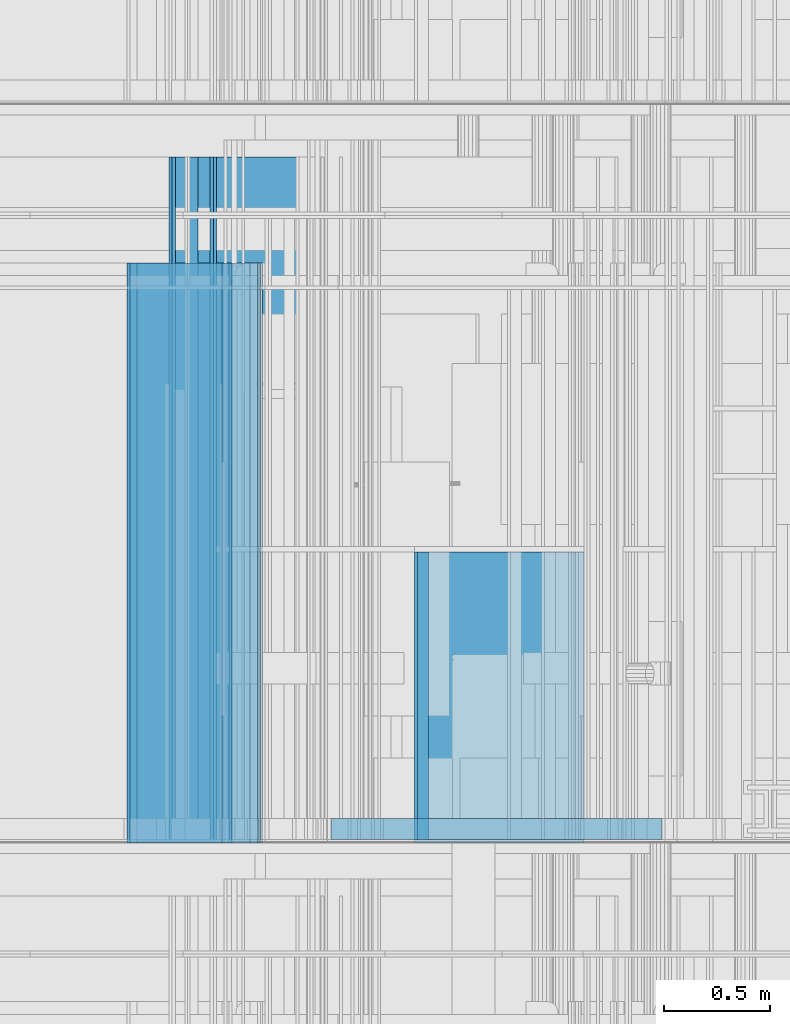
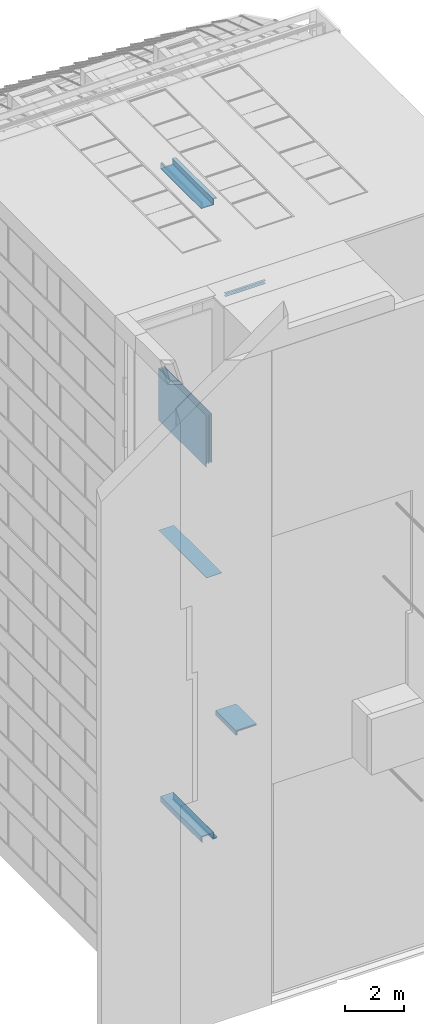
# One storey, part 76 of 583: 28 building element parts, 13 elements without a shape of their own.
"""IFC2X3 building model written with IfcOpenShell, lengths in metres."""

from ifc_helpers import new_model, entity, si_unit, converted_unit, derived_unit, money_unit, direction, frame, frame_2d, origin_with_axes, place, context, subcontext, project, spatial, polyline, rectangle, outline, extrude, material, type_object, element, aggregate, save


model = new_model("IFC2X3")

# Units and contexts
model_context = context("Model", 3, precision=1e-05, world=origin_with_axes(), true_north=direction((0.0, 1.0)))
body_context = subcontext(model_context, "Body", "Model", "MODEL_VIEW", scale=1.0)
ifc_project = project(units=[si_unit("LENGTHUNIT", "METRE"), si_unit("AREAUNIT", "SQUARE_METRE"), si_unit("VOLUMEUNIT", "CUBIC_METRE"), si_unit("ABSORBEDDOSEUNIT", "GRAY"), si_unit("AMOUNTOFSUBSTANCEUNIT", "MOLE"), si_unit("DOSEEQUIVALENTUNIT", "SIEVERT"), si_unit("ELECTRICCAPACITANCEUNIT", "FARAD"), si_unit("ELECTRICCHARGEUNIT", "COULOMB"), si_unit("ELECTRICCONDUCTANCEUNIT", "SIEMENS"), si_unit("ELECTRICCURRENTUNIT", "AMPERE"), si_unit("ELECTRICRESISTANCEUNIT", "OHM"), si_unit("ELECTRICVOLTAGEUNIT", "VOLT"), si_unit("ENERGYUNIT", "JOULE"), si_unit("FORCEUNIT", "NEWTON"), si_unit("FREQUENCYUNIT", "HERTZ"), si_unit("ILLUMINANCEUNIT", "LUX"), si_unit("INDUCTANCEUNIT", "HENRY"), si_unit("LUMINOUSFLUXUNIT", "LUMEN"), si_unit("LUMINOUSINTENSITYUNIT", "CANDELA"), si_unit("MAGNETICFLUXDENSITYUNIT", "TESLA"), si_unit("MAGNETICFLUXUNIT", "WEBER"), si_unit("MASSUNIT", "GRAM"), converted_unit("PLANEANGLEUNIT", "degree", entity("IfcReal", 0.0174532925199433), si_unit("PLANEANGLEUNIT", "RADIAN"), dimensions=[0, 0, 0, 0, 0, 0, 0]), si_unit("POWERUNIT", "WATT"), si_unit("PRESSUREUNIT", "PASCAL"), si_unit("RADIOACTIVITYUNIT", "BECQUEREL"), si_unit("SOLIDANGLEUNIT", "STERADIAN"), si_unit("THERMODYNAMICTEMPERATUREUNIT", "KELVIN"), si_unit("TIMEUNIT", "SECOND"), derived_unit("ACCELERATIONUNIT", [(si_unit("LENGTHUNIT", "METRE"), 1), (si_unit("TIMEUNIT", "SECOND"), -2)]), derived_unit("ANGULARVELOCITYUNIT", [(converted_unit("PLANEANGLEUNIT", "degree", entity("IfcReal", 0.0174532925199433), si_unit("PLANEANGLEUNIT", "RADIAN"), dimensions=[0, 0, 0, 0, 0, 0, 0]), 1), (si_unit("TIMEUNIT", "SECOND"), -1)]), derived_unit("CURVATUREUNIT", [(converted_unit("PLANEANGLEUNIT", "degree", entity("IfcReal", 0.0174532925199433), si_unit("PLANEANGLEUNIT", "RADIAN"), dimensions=[0, 0, 0, 0, 0, 0, 0]), 1), (si_unit("LENGTHUNIT", "METRE"), -1)]), derived_unit("DYNAMICVISCOSITYUNIT", [(si_unit("PRESSUREUNIT", "PASCAL"), 1), (si_unit("TIMEUNIT", "SECOND"), 1)]), derived_unit("HEATFLUXDENSITYUNIT", [(si_unit("POWERUNIT", "WATT"), 1), (si_unit("LENGTHUNIT", "METRE"), -2)]), derived_unit("HEATINGVALUEUNIT", [(si_unit("ENERGYUNIT", "JOULE"), 1), (si_unit("MASSUNIT", "GRAM"), -1)]), derived_unit("INTEGERCOUNTRATEUNIT", [(si_unit("TIMEUNIT", "SECOND"), -1)]), derived_unit("IONCONCENTRATIONUNIT", [(si_unit("MASSUNIT", "GRAM"), 1), (si_unit("VOLUMEUNIT", "CUBIC_METRE"), -1)]), derived_unit("ISOTHERMALMOISTURECAPACITYUNIT", [(si_unit("VOLUMEUNIT", "CUBIC_METRE"), 1), (si_unit("MASSUNIT", "GRAM"), -1)]), derived_unit("KINEMATICVISCOSITYUNIT", [(si_unit("AREAUNIT", "SQUARE_METRE"), 1), (si_unit("TIMEUNIT", "SECOND"), -1)]), derived_unit("LINEARFORCEUNIT", [(si_unit("FORCEUNIT", "NEWTON"), 1), (si_unit("LENGTHUNIT", "METRE"), -1)]), derived_unit("LINEARMOMENTUNIT", [(si_unit("FORCEUNIT", "NEWTON"), 1), (si_unit("LENGTHUNIT", "METRE"), -1)]), derived_unit("LINEARSTIFFNESSUNIT", [(si_unit("FORCEUNIT", "NEWTON"), 1), (si_unit("LENGTHUNIT", "METRE"), -1)]), derived_unit("LINEARVELOCITYUNIT", [(si_unit("LENGTHUNIT", "METRE"), 1), (si_unit("TIMEUNIT", "SECOND"), -1)]), derived_unit("LUMINOUSINTENSITYDISTRIBUTIONUNIT", [(si_unit("LUMINOUSINTENSITYUNIT", "CANDELA"), 1), (si_unit("LUMINOUSFLUXUNIT", "LUMEN"), -1)]), derived_unit("MASSDENSITYUNIT", [(si_unit("MASSUNIT", "GRAM"), 1), (si_unit("VOLUMEUNIT", "CUBIC_METRE"), -1)]), derived_unit("MASSFLOWRATEUNIT", [(si_unit("MASSUNIT", "GRAM"), 1), (si_unit("TIMEUNIT", "SECOND"), -1)]), derived_unit("MASSPERLENGTHUNIT", [(si_unit("MASSUNIT", "GRAM"), 1), (si_unit("LENGTHUNIT", "METRE"), -1)]), derived_unit("MODULUSOFELASTICITYUNIT", [(si_unit("FORCEUNIT", "NEWTON"), 1), (si_unit("AREAUNIT", "SQUARE_METRE"), -1)]), derived_unit("MODULUSOFLINEARSUBGRADEREACTIONUNIT", [(si_unit("FORCEUNIT", "NEWTON"), 1), (si_unit("LENGTHUNIT", "METRE"), -2)]), derived_unit("MODULUSOFROTATIONALSUBGRADEREACTIONUNIT", [(si_unit("FORCEUNIT", "NEWTON"), 1), (si_unit("LENGTHUNIT", "METRE"), 1)]), derived_unit("MODULUSOFSUBGRADEREACTIONUNIT", [(si_unit("FORCEUNIT", "NEWTON"), 1), (si_unit("VOLUMEUNIT", "CUBIC_METRE"), -1)]), derived_unit("MOISTUREDIFFUSIVITYUNIT", [(si_unit("VOLUMEUNIT", "CUBIC_METRE"), 1), (si_unit("TIMEUNIT", "SECOND"), -1)]), derived_unit("MOLECULARWEIGHTUNIT", [(si_unit("MASSUNIT", "GRAM"), 1), (si_unit("AMOUNTOFSUBSTANCEUNIT", "MOLE"), -1)]), derived_unit("PLANARFORCEUNIT", [(si_unit("FORCEUNIT", "NEWTON"), 1), (si_unit("LENGTHUNIT", "METRE"), -2)]), derived_unit("ROTATIONALFREQUENCYUNIT", [(si_unit("TIMEUNIT", "SECOND"), -1)]), derived_unit("ROTATIONALMASSUNIT", [(si_unit("MASSUNIT", "GRAM"), 1), (si_unit("LENGTHUNIT", "METRE"), 2)]), derived_unit("ROTATIONALSTIFFNESSUNIT", [(si_unit("FORCEUNIT", "NEWTON"), 1), (si_unit("LENGTHUNIT", "METRE"), 1), (converted_unit("PLANEANGLEUNIT", "degree", entity("IfcReal", 0.0174532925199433), si_unit("PLANEANGLEUNIT", "RADIAN"), dimensions=[0, 0, 0, 0, 0, 0, 0]), -1)]), derived_unit("SECTIONAREAINTEGRALUNIT", [(si_unit("LENGTHUNIT", "METRE"), 5)]), derived_unit("SECTIONMODULUSUNIT", [(si_unit("LENGTHUNIT", "METRE"), 3)]), derived_unit("SHEARMODULUSUNIT", [(si_unit("FORCEUNIT", "NEWTON"), 1), (si_unit("AREAUNIT", "SQUARE_METRE"), -1)]), derived_unit("SOUNDPOWERUNIT", [(si_unit("ENERGYUNIT", "JOULE"), 1), (si_unit("TIMEUNIT", "SECOND"), -1)]), derived_unit("SPECIFICHEATCAPACITYUNIT", [(si_unit("FORCEUNIT", "NEWTON"), 1), (si_unit("MASSUNIT", "GRAM"), -1), (si_unit("THERMODYNAMICTEMPERATUREUNIT", "KELVIN"), -1)]), derived_unit("TEMPERATUREGRADIENTUNIT", [(si_unit("THERMODYNAMICTEMPERATUREUNIT", "KELVIN"), 1), (si_unit("LENGTHUNIT", "METRE"), -1)]), derived_unit("THERMALADMITTANCEUNIT", [(si_unit("POWERUNIT", "WATT"), 1), (si_unit("AREAUNIT", "SQUARE_METRE"), -1), (si_unit("THERMODYNAMICTEMPERATUREUNIT", "KELVIN"), -1)]), derived_unit("THERMALCONDUCTANCEUNIT", [(si_unit("POWERUNIT", "WATT"), 1), (si_unit("LENGTHUNIT", "METRE"), -1), (si_unit("THERMODYNAMICTEMPERATUREUNIT", "KELVIN"), -1)]), derived_unit("THERMALEXPANSIONCOEFFICIENTUNIT", [(si_unit("THERMODYNAMICTEMPERATUREUNIT", "KELVIN"), -1)]), derived_unit("THERMALRESISTANCEUNIT", [(si_unit("AREAUNIT", "SQUARE_METRE"), 1), (si_unit("POWERUNIT", "WATT"), -1)]), derived_unit("THERMALTRANSMITTANCEUNIT", [(si_unit("POWERUNIT", "WATT"), 1), (si_unit("AREAUNIT", "SQUARE_METRE"), -1), (si_unit("THERMODYNAMICTEMPERATUREUNIT", "KELVIN"), -1)]), derived_unit("TORQUEUNIT", [(si_unit("FORCEUNIT", "NEWTON"), 1), (si_unit("LENGTHUNIT", "METRE"), 1)]), derived_unit("VAPORPERMEABILITYUNIT", [(si_unit("MASSUNIT", "GRAM"), 1), (si_unit("TIMEUNIT", "SECOND"), -1)]), derived_unit("VOLUMETRICFLOWRATEUNIT", [(si_unit("VOLUMEUNIT", "CUBIC_METRE"), 1), (si_unit("TIMEUNIT", "SECOND"), -1)]), derived_unit("WARPINGCONSTANTUNIT", [(si_unit("LENGTHUNIT", "METRE"), 6)]), derived_unit("WARPINGMOMENTUNIT", [(si_unit("FORCEUNIT", "NEWTON"), 1), (si_unit("LENGTHUNIT", "METRE"), 2)]), money_unit("GBP")], contexts=[model_context])

# Site, building, storey
site_placement = place(None, origin_with_axes())
site = spatial("IfcSite", under=ifc_project, at=site_placement, Name="Site", CompositionType="ELEMENT")
building_placement = place(site_placement, origin_with_axes())
building = spatial("IfcBuilding", under=site, at=building_placement, Name="Building01", CompositionType="ELEMENT")
storey_placement = place(building_placement, frame((0.0, 0.0, 20.78), z_axis=(0.0, 0.0, 1.0), x_axis=(1.0, 0.0, 0.0)))
storey = spatial("IfcBuildingStorey", under=building, at=storey_placement, Name="RL", CompositionType="ELEMENT", Elevation=20.78)

# Wall, building element part
wall_type_1 = type_object("IfcWallType", Name="SHE_A-Walls_Type03a_BlockworkWall_170mm", PredefinedType="NOTDEFINED")
wall_1_placement = place(storey_placement, frame((6.263, 8.64, -9.635), z_axis=(0.0, 1.0, 0.0), x_axis=(1.0, 0.0, 0.0)))
wall_1 = element("IfcWall", 1, at=wall_1_placement, inside=storey, type_object=wall_type_1, Name="4B", ObjectType="SHE_A-Walls_Type03a_BlockworkWall_170mm")
ifc_material_1 = material(Name="A_BSUK_WallInternal_Finishes_Plaster")
building_element_part_1_placement = place(wall_1_placement, origin_with_axes())
building_element_part_1 = element("IfcBuildingElementPart", 2, at=building_element_part_1_placement, material=ifc_material_1, Name="3", context=body_context, shape_type="SweptSolid", body=[
    extrude(outline(polyline([(0.587, 0.015), (0.0, 0.015), (0.0, 0.0), (0.602, 0.0), (0.587, 0.015)])), origin_with_axes(), (0.0, 0.0, 1.0), 3.24),
])
aggregate(wall_1, [building_element_part_1])

# Wall, building element parts
wall_type_2 = type_object("IfcWallType", Name="SHE_A-Walls_Type06d_ExternalWallInsulation_48mm", PredefinedType="NOTDEFINED")
wall_2_placement = place(storey_placement, frame((6.64418, 8.64, -20.51), z_axis=(0.0, 1.0, 0.0), x_axis=(-1.0, 0.0, 0.0)))
wall_2 = element("IfcWall", 3, at=wall_2_placement, inside=storey, type_object=wall_type_2, Name="6D", ObjectType="SHE_A-Walls_Type06d_ExternalWallInsulation_48mm")
ifc_material_2 = material(Name="A_BSUK_Insulation")
placement_1 = place(wall_2_placement, origin_with_axes())
building_element_part_2 = element("IfcBuildingElementPart", 4, at=placement_1, material=ifc_material_2, Name="1", context=body_context, shape_type="SweptSolid", body=[
    extrude(outline(polyline([(0.10818, 0.036), (-0.036, 0.036), (0.0, 0.0), (0.14418, 0.0), (0.10818, 0.036)])), origin_with_axes(), (0.0, 0.0, 1.0), 2.74),
])
ifc_material_3 = material(Name="A_BSUK_WallInternal_Finishes_Plasterboard")
building_element_part_3 = element("IfcBuildingElementPart", 5, at=placement_1, material=ifc_material_3, Name="3", context=body_context, shape_type="SweptSolid", body=[
    extrude(outline(polyline([(0.09618, 0.048), (-0.048, 0.048), (-0.035, 0.035), (0.10918, 0.035), (0.09618, 0.048)])), origin_with_axes(), (0.0, 0.0, 1.0), 2.74),
])
aggregate(wall_2, [building_element_part_2, building_element_part_3])

wall_3_placement = place(storey_placement, frame((6.5, 8.64, -20.51), z_axis=(0.0, 1.0, 0.0), x_axis=(0.0, 0.0, 1.0)))
wall_3 = element("IfcWall", 6, at=wall_3_placement, inside=storey, type_object=wall_type_2, Name="6D", ObjectType="SHE_A-Walls_Type06d_ExternalWallInsulation_48mm")
placement_2 = place(wall_3_placement, origin_with_axes())
building_element_part_4 = element("IfcBuildingElementPart", 7, at=placement_2, material=ifc_material_2, Name="1", context=body_context, shape_type="SweptSolid", body=[
    extrude(outline(polyline([(0.266, 0.036), (0.036, 0.036), (0.0, 0.0), (0.23, 0.0), (0.266, 0.036)])), origin_with_axes(), (0.0, 0.0, 1.0), 2.74),
])
building_element_part_5 = element("IfcBuildingElementPart", 8, at=placement_2, material=ifc_material_3, Name="3", context=body_context, shape_type="SweptSolid", body=[
    extrude(outline(polyline([(0.278, 0.048), (0.048, 0.048), (0.035, 0.035), (0.265, 0.035), (0.278, 0.048)])), origin_with_axes(), (0.0, 0.0, 1.0), 2.74),
])
aggregate(wall_3, [building_element_part_4, building_element_part_5])

wall_4_placement = place(storey_placement, frame((6.5, 8.64, -20.28), z_axis=(0.0, 1.0, 0.0), x_axis=(-1.0, 0.0, 0.0)))
wall_4 = element("IfcWall", 9, at=wall_4_placement, inside=storey, type_object=wall_type_2, Name="6D", ObjectType="SHE_A-Walls_Type06d_ExternalWallInsulation_48mm")
placement_3 = place(wall_4_placement, origin_with_axes())
building_element_part_6 = element("IfcBuildingElementPart", 10, at=placement_3, material=ifc_material_2, Name="1", context=body_context, shape_type="SweptSolid", body=[
    extrude(outline(polyline([(0.436, 0.036), (-0.036, 0.036), (0.0, 0.0), (0.4, 0.0), (0.436, 0.036)])), origin_with_axes(), (0.0, 0.0, 1.0), 2.74),
])
building_element_part_7 = element("IfcBuildingElementPart", 11, at=placement_3, material=ifc_material_3, Name="3", context=body_context, shape_type="SweptSolid", body=[
    extrude(outline(polyline([(0.448, 0.048), (-0.048, 0.048), (-0.035, 0.035), (0.435, 0.035), (0.448, 0.048)])), origin_with_axes(), (0.0, 0.0, 1.0), 2.74),
])
aggregate(wall_4, [building_element_part_6, building_element_part_7])

wall_5_placement = place(storey_placement, frame((6.1, 8.64, -20.28), z_axis=(0.0, 1.0, 0.0), x_axis=(0.0, 0.0, -1.0)))
wall_5 = element("IfcWall", 12, at=wall_5_placement, inside=storey, type_object=wall_type_2, Name="6D", ObjectType="SHE_A-Walls_Type06d_ExternalWallInsulation_48mm")
placement_4 = place(wall_5_placement, origin_with_axes())
building_element_part_8 = element("IfcBuildingElementPart", 13, at=placement_4, material=ifc_material_2, Name="1", context=body_context, shape_type="SweptSolid", body=[
    extrude(outline(polyline([(0.194, 0.036), (-0.036, 0.036), (0.0, 0.0), (0.23, 0.0), (0.194, 0.036)])), origin_with_axes(), (0.0, 0.0, 1.0), 2.74),
])
building_element_part_9 = element("IfcBuildingElementPart", 14, at=placement_4, material=ifc_material_3, Name="3", context=body_context, shape_type="SweptSolid", body=[
    extrude(outline(polyline([(0.182, 0.048), (-0.048, 0.048), (-0.035, 0.035), (0.195, 0.035), (0.182, 0.048)])), origin_with_axes(), (0.0, 0.0, 1.0), 2.74),
])
aggregate(wall_5, [building_element_part_8, building_element_part_9])

wall_6_placement = place(storey_placement, frame((6.1, 8.64, 5.93), z_axis=(0.0, 1.0, 0.0), x_axis=(0.0, 0.0, -1.0)))
wall_6 = element("IfcWall", 15, at=wall_6_placement, inside=storey, type_object=wall_type_2, Name="6D", ObjectType="SHE_A-Walls_Type06d_ExternalWallInsulation_48mm")
placement_5 = place(wall_6_placement, origin_with_axes())
building_element_part_10 = element("IfcBuildingElementPart", 16, at=placement_5, material=ifc_material_2, Name="1", context=body_context, shape_type="SweptSolid", body=[
    extrude(outline(polyline([(0.266, 0.036), (0.036, 0.036), (0.0, 0.0), (0.23, 0.0), (0.266, 0.036)])), origin_with_axes(), (0.0, 0.0, 1.0), 2.74),
])
building_element_part_11 = element("IfcBuildingElementPart", 17, at=placement_5, material=ifc_material_3, Name="3", context=body_context, shape_type="SweptSolid", body=[
    extrude(outline(polyline([(0.278, 0.048), (0.048, 0.048), (0.035, 0.035), (0.265, 0.035), (0.278, 0.048)])), origin_with_axes(), (0.0, 0.0, 1.0), 2.74),
])
aggregate(wall_6, [building_element_part_10, building_element_part_11])

wall_7_placement = place(storey_placement, frame((6.1, 8.64, 5.7), z_axis=(0.0, 1.0, 0.0), x_axis=(1.0, 0.0, 0.0)))
wall_7 = element("IfcWall", 18, at=wall_7_placement, inside=storey, type_object=wall_type_2, Name="6D", ObjectType="SHE_A-Walls_Type06d_ExternalWallInsulation_48mm")
placement_6 = place(wall_7_placement, origin_with_axes())
building_element_part_12 = element("IfcBuildingElementPart", 19, at=placement_6, material=ifc_material_2, Name="1", context=body_context, shape_type="SweptSolid", body=[
    extrude(outline(polyline([(0.436, 0.036), (-0.036, 0.036), (0.0, 0.0), (0.4, 0.0), (0.436, 0.036)])), origin_with_axes(), (0.0, 0.0, 1.0), 2.74),
])
building_element_part_13 = element("IfcBuildingElementPart", 20, at=placement_6, material=ifc_material_3, Name="3", context=body_context, shape_type="SweptSolid", body=[
    extrude(outline(polyline([(0.448, 0.048), (-0.048, 0.048), (-0.035, 0.035), (0.435, 0.035), (0.448, 0.048)])), origin_with_axes(), (0.0, 0.0, 1.0), 2.74),
])
aggregate(wall_7, [building_element_part_12, building_element_part_13])

wall_8_placement = place(storey_placement, frame((6.5, 8.64, 5.7), z_axis=(0.0, 1.0, 0.0), x_axis=(0.0, 0.0, 1.0)))
wall_8 = element("IfcWall", 21, at=wall_8_placement, inside=storey, type_object=wall_type_2, Name="6D", ObjectType="SHE_A-Walls_Type06d_ExternalWallInsulation_48mm")
placement_7 = place(wall_8_placement, origin_with_axes())
building_element_part_14 = element("IfcBuildingElementPart", 22, at=placement_7, material=ifc_material_2, Name="1", context=body_context, shape_type="SweptSolid", body=[
    extrude(outline(polyline([(0.194, 0.036), (-0.036, 0.036), (0.0, 0.0), (0.23, 0.0), (0.194, 0.036)])), origin_with_axes(), (0.0, 0.0, 1.0), 2.74),
])
building_element_part_15 = element("IfcBuildingElementPart", 23, at=placement_7, material=ifc_material_3, Name="3", context=body_context, shape_type="SweptSolid", body=[
    extrude(outline(polyline([(0.182, 0.048), (-0.048, 0.048), (-0.035, 0.035), (0.195, 0.035), (0.182, 0.048)])), origin_with_axes(), (0.0, 0.0, 1.0), 2.74),
])
aggregate(wall_8, [building_element_part_14, building_element_part_15])

wall_9_placement = place(storey_placement, frame((6.5, 8.64, 5.93), z_axis=(0.0, 1.0, 0.0), x_axis=(1.0, 0.0, 0.0)))
wall_9 = element("IfcWall", 24, at=wall_9_placement, inside=storey, type_object=wall_type_2, Name="6D", ObjectType="SHE_A-Walls_Type06d_ExternalWallInsulation_48mm")
placement_8 = place(wall_9_placement, origin_with_axes())
building_element_part_16 = element("IfcBuildingElementPart", 25, at=placement_8, material=ifc_material_2, Name="1", context=body_context, shape_type="SweptSolid", body=[
    extrude(outline(polyline([(0.170326, 0.036), (0.036, 0.036), (0.0, 0.0), (0.134326, 0.0), (0.170326, 0.036)])), origin_with_axes(), (0.0, 0.0, 1.0), 2.74),
])
building_element_part_17 = element("IfcBuildingElementPart", 26, at=placement_8, material=ifc_material_3, Name="3", context=body_context, shape_type="SweptSolid", body=[
    extrude(outline(polyline([(0.182326, 0.048), (0.048, 0.048), (0.035, 0.035), (0.169326, 0.035), (0.182326, 0.048)])), origin_with_axes(), (0.0, 0.0, 1.0), 2.74),
])
aggregate(wall_9, [building_element_part_16, building_element_part_17])

wall_type_3 = type_object("IfcWallType", Name="SHE_A-Walls_Type01c_Partywall_225mm_twin_tall", PredefinedType="NOTDEFINED")
wall_10_placement = place(storey_placement, frame((6.337, 8.64, -2.95), z_axis=(0.0, 1.0, 0.0), x_axis=(0.0, 0.0, -1.0)))
wall_10 = element("IfcWall", 27, at=wall_10_placement, inside=storey, type_object=wall_type_3, Name="1C", ObjectType="SHE_A-Walls_Type01c_Partywall_225mm_twin_tall")
placement_9 = place(wall_10_placement, origin_with_axes())
building_element_part_18 = element("IfcBuildingElementPart", 28, at=placement_9, material=ifc_material_2, Name="1", context=body_context, shape_type="SweptSolid", body=[
    extrude(rectangle(XDim=2.0, YDim=0.05, at=frame_2d((1.0, -0.025), x_axis=(-1.0, 0.0))), origin_with_axes(), (0.0, 0.0, 1.0), 3.24),
])
building_element_part_19 = element("IfcBuildingElementPart", 29, at=placement_9, material=ifc_material_3, Name="3", context=body_context, shape_type="SweptSolid", body=[
    extrude(rectangle(XDim=2.13, YDim=0.015, at=frame_2d((1.065, 0.0795), x_axis=(-1.0, 0.0))), origin_with_axes(), (0.0, 0.0, 1.0), 3.24),
])
building_element_part_20 = element("IfcBuildingElementPart", 30, at=placement_9, material=ifc_material_3, Name="4", context=body_context, shape_type="SweptSolid", body=[
    extrude(rectangle(XDim=2.0, YDim=0.015, at=frame_2d((1.0, 0.0645), x_axis=(-1.0, 0.0))), origin_with_axes(), (0.0, 0.0, 1.0), 3.24),
])
building_element_part_21 = element("IfcBuildingElementPart", 31, at=placement_9, material=ifc_material_3, Name="5", context=body_context, shape_type="SweptSolid", body=[
    extrude(rectangle(XDim=2.0, YDim=0.015, at=frame_2d((1.0, -0.1155), x_axis=(-1.0, 0.0))), origin_with_axes(), (0.0, 0.0, 1.0), 3.24),
])
building_element_part_22 = element("IfcBuildingElementPart", 32, at=placement_9, material=ifc_material_3, Name="6", context=body_context, shape_type="SweptSolid", body=[
    extrude(outline(polyline([(2.0, -0.123), (-0.015, -0.123), (-0.015, -0.138), (1.985, -0.138), (2.0, -0.123)])), origin_with_axes(), (0.0, 0.0, 1.0), 3.24),
])
aggregate(wall_10, [building_element_part_18, building_element_part_19, building_element_part_20, building_element_part_21, building_element_part_22])

wall_type_4 = type_object("IfcWallType", Name="SHE_A-Walls_Type05a_Partition_95mm_tall", PredefinedType="NOTDEFINED")
wall_11_placement = place(storey_placement, frame((6.965, 8.64, 1.756661), z_axis=(0.0, 1.0, 0.0), x_axis=(1.0, 0.0, 0.0)))
wall_11 = element("IfcWall", 33, at=wall_11_placement, inside=storey, type_object=wall_type_4, Name="5A", ObjectType="SHE_A-Walls_Type05a_Partition_95mm_tall")
ifc_material_4 = material(Name="A_BSUK_Walls_Timber")
placement_10 = place(wall_11_placement, origin_with_axes())
building_element_part_23 = element("IfcBuildingElementPart", 34, at=placement_10, material=ifc_material_4, Name="2", context=body_context, shape_type="SweptSolid", body=[
    extrude(rectangle(XDim=1.565, YDim=0.015, at=frame_2d((0.8325, 0.0675), x_axis=(-1.0, 0.0))), frame((0.0, 0.0, 0.015), z_axis=(0.0, 0.0, 1.0), x_axis=(1.0, 0.0, 0.0)), (0.0, 0.0, 1.0), 0.1),
])
building_element_part_24 = element("IfcBuildingElementPart", 35, at=placement_10, material=ifc_material_4, Name="3", context=body_context, shape_type="SweptSolid", body=[
    extrude(rectangle(XDim=1.565, YDim=0.015, at=frame_2d((0.8325, -0.0425), x_axis=(-1.0, 0.0))), frame((0.0, 0.0, 0.015), z_axis=(0.0, 0.0, 1.0), x_axis=(1.0, 0.0, 0.0)), (0.0, 0.0, 1.0), 0.1),
])
aggregate(wall_11, [building_element_part_23, building_element_part_24])

wall_type_5 = type_object("IfcWallType", Name="SHE_A-Walls_Type05c_PreWallShell_65mm", PredefinedType="NOTDEFINED")
wall_12_placement = place(storey_placement, frame((8.21067, 8.64, -16.40427), z_axis=(0.0, 1.0, 0.0), x_axis=(-1.0, 0.0, 0.0)))
wall_12 = element("IfcWall", 36, at=wall_12_placement, inside=storey, type_object=wall_type_5, Name="5C", ObjectType="SHE_A-Walls_Type05c_PreWallShell_65mm")
ifc_material_5 = material(Name="A_BSUK_OpeningsClearance")
placement_11 = place(wall_12_placement, origin_with_axes())
building_element_part_25 = element("IfcBuildingElementPart", 37, at=placement_11, material=ifc_material_5, Name="1", context=body_context, shape_type="SweptSolid", body=[
    extrude(rectangle(XDim=0.735, YDim=0.05, at=frame_2d((0.3675, 0.025), x_axis=(-1.0, 0.0))), origin_with_axes(), (0.0, 0.0, 1.0), 1.375),
])
building_element_part_26 = element("IfcBuildingElementPart", 38, at=placement_11, material=ifc_material_4, Name="2", context=body_context, shape_type="SweptSolid", body=[
    extrude(rectangle(XDim=0.8, YDim=0.015, at=frame_2d((0.4, 0.0575), x_axis=(-1.0, 0.0))), origin_with_axes(), (0.0, 0.0, 1.0), 1.375),
])
aggregate(wall_12, [building_element_part_25, building_element_part_26])

wall_13_placement = place(storey_placement, frame((7.47567, 8.64, -16.35427), z_axis=(0.0, 1.0, 0.0), x_axis=(0.0, 0.0, -1.0)))
wall_13 = element("IfcWall", 39, at=wall_13_placement, inside=storey, type_object=wall_type_5, Name="5C", ObjectType="SHE_A-Walls_Type05c_PreWallShell_65mm")
placement_12 = place(wall_13_placement, origin_with_axes())
building_element_part_27 = element("IfcBuildingElementPart", 40, at=placement_12, material=ifc_material_5, Name="1", context=body_context, shape_type="SweptSolid", body=[
    extrude(rectangle(XDim=0.185, YDim=0.05, at=frame_2d((0.0925, 0.025), x_axis=(-1.0, 0.0))), origin_with_axes(), (0.0, 0.0, 1.0), 1.375),
])
building_element_part_28 = element("IfcBuildingElementPart", 41, at=placement_12, material=ifc_material_4, Name="2", context=body_context, shape_type="SweptSolid", body=[
    extrude(rectangle(XDim=0.185, YDim=0.015, at=frame_2d((0.0925, 0.0575), x_axis=(-1.0, 0.0))), origin_with_axes(), (0.0, 0.0, 1.0), 1.375),
])
aggregate(wall_13, [building_element_part_27, building_element_part_28])

save(model, "model.ifc")
